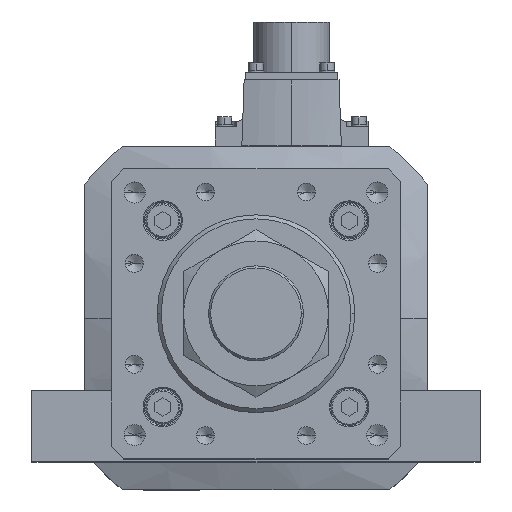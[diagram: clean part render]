
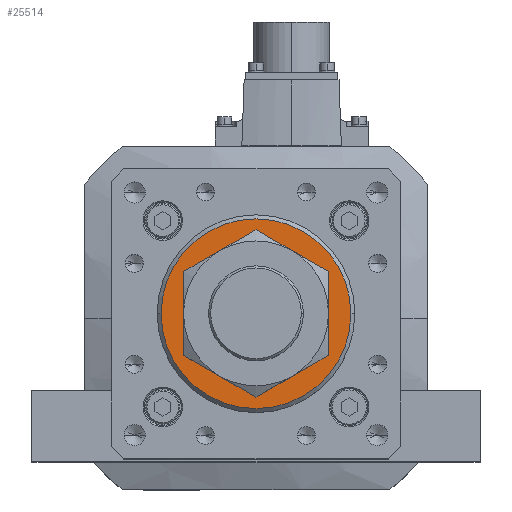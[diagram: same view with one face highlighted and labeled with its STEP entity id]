
A CAD part, top view. The second image highlights one B-rep face of the part: STEP entity #25514.
In plain terms, the highlighted planar face has unit normal (0, 0, 1).
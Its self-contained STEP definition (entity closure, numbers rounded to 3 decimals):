
#524 = EDGE_CURVE ( 'NONE', #33087, #29110, #9376, .T. ) ;
#2306 = AXIS2_PLACEMENT_3D ( 'NONE', #21960, #27642, #12855 ) ;
#2479 = EDGE_CURVE ( 'NONE', #6700, #6519, #11093, .T. ) ;
#3774 = PLANE ( 'NONE',  #2306 ) ;
#5371 = EDGE_LOOP ( 'NONE', ( #26091, #6754 ) ) ;
#5845 = CIRCLE ( 'NONE', #12400, 23. ) ;
#6304 = ORIENTED_EDGE ( 'NONE', *, *, #2479, .T. ) ;
#6519 = VERTEX_POINT ( 'NONE', #13112 ) ;
#6700 = VERTEX_POINT ( 'NONE', #29309 ) ;
#6754 = ORIENTED_EDGE ( 'NONE', *, *, #10047, .T. ) ;
#6810 = DIRECTION ( 'NONE',  ( 1., 0., 0. ) ) ;
#8415 = CARTESIAN_POINT ( 'NONE',  ( 0., 0., 696. ) ) ;
#9376 = CIRCLE ( 'NONE', #36556, 36. ) ;
#9766 = EDGE_LOOP ( 'NONE', ( #6304, #15888 ) ) ;
#10047 = EDGE_CURVE ( 'NONE', #29110, #33087, #14607, .T. ) ;
#11093 = CIRCLE ( 'NONE', #30494, 23. ) ;
#12400 = AXIS2_PLACEMENT_3D ( 'NONE', #8415, #23599, #38288 ) ;
#12855 = DIRECTION ( 'NONE',  ( 1., 0., 0. ) ) ;
#13112 = CARTESIAN_POINT ( 'NONE',  ( -23., 0., 696. ) ) ;
#13503 = FACE_OUTER_BOUND ( 'NONE', #5371, .T. ) ;
#14607 = CIRCLE ( 'NONE', #21026, 36. ) ;
#15063 = CARTESIAN_POINT ( 'NONE',  ( 0., 0., 696. ) ) ;
#15716 = DIRECTION ( 'NONE',  ( 0., 0., 1. ) ) ;
#15888 = ORIENTED_EDGE ( 'NONE', *, *, #35195, .T. ) ;
#18038 = DIRECTION ( 'NONE',  ( 1., 0., 0. ) ) ;
#18449 = CARTESIAN_POINT ( 'NONE',  ( 0., 0., 696. ) ) ;
#18596 = DIRECTION ( 'NONE',  ( 1., 0., 0. ) ) ;
#20198 = CARTESIAN_POINT ( 'NONE',  ( 36., 0., 696. ) ) ;
#21026 = AXIS2_PLACEMENT_3D ( 'NONE', #15063, #26761, #18038 ) ;
#21414 = FACE_BOUND ( 'NONE', #9766, .T. ) ;
#21960 = CARTESIAN_POINT ( 'NONE',  ( 0., 0., 696. ) ) ;
#22338 = CARTESIAN_POINT ( 'NONE',  ( -36., 0., 696. ) ) ;
#23599 = DIRECTION ( 'NONE',  ( 0., 0., -1. ) ) ;
#25514 = ADVANCED_FACE ( 'NONE', ( #21414, #13503 ), #3774, .T. ) ;
#26091 = ORIENTED_EDGE ( 'NONE', *, *, #524, .T. ) ;
#26761 = DIRECTION ( 'NONE',  ( 0., 0., 1. ) ) ;
#27642 = DIRECTION ( 'NONE',  ( 0., 0., 1. ) ) ;
#29110 = VERTEX_POINT ( 'NONE', #20198 ) ;
#29309 = CARTESIAN_POINT ( 'NONE',  ( 23., 0., 696. ) ) ;
#30494 = AXIS2_PLACEMENT_3D ( 'NONE', #18449, #30750, #6810 ) ;
#30750 = DIRECTION ( 'NONE',  ( 0., 0., -1. ) ) ;
#33087 = VERTEX_POINT ( 'NONE', #22338 ) ;
#35195 = EDGE_CURVE ( 'NONE', #6519, #6700, #5845, .T. ) ;
#36291 = CARTESIAN_POINT ( 'NONE',  ( 0., 0., 696. ) ) ;
#36556 = AXIS2_PLACEMENT_3D ( 'NONE', #36291, #15716, #18596 ) ;
#38288 = DIRECTION ( 'NONE',  ( 1., 0., 0. ) ) ;
